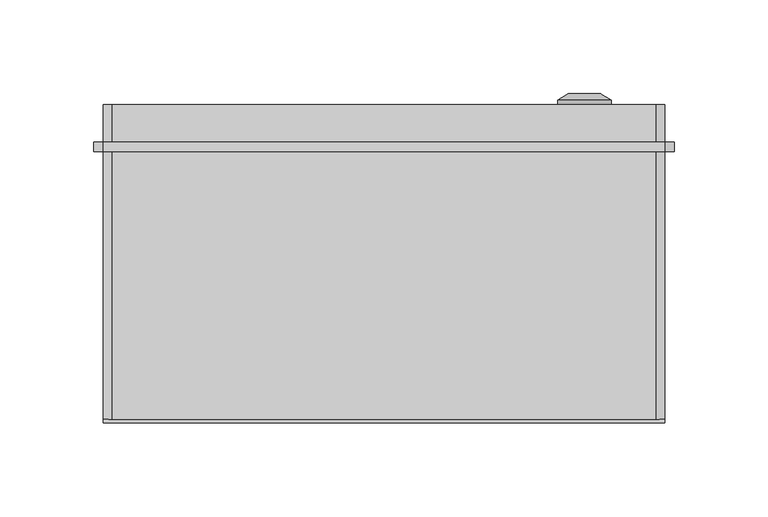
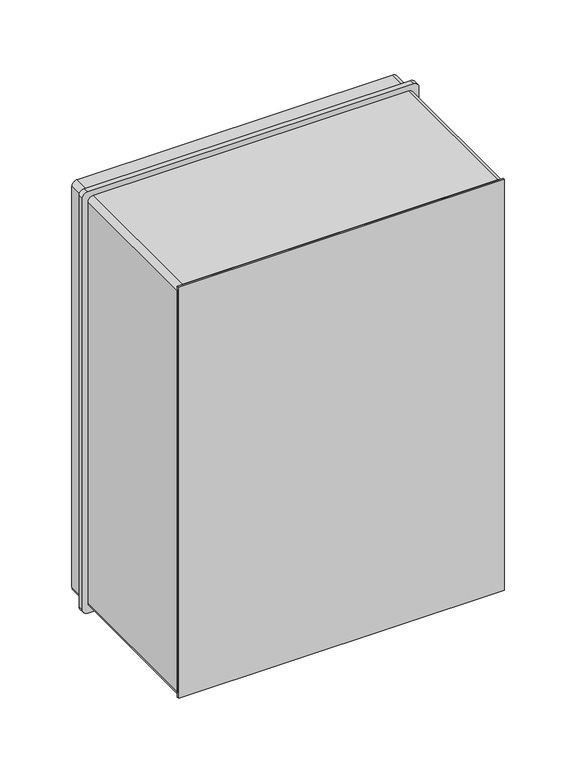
"""IFC4 building model written with IfcOpenShell, lengths in millimetres: proxy geometry, ЩПМП_IP55 : ЩПМП-1-1."""

from ifc_helpers import new_model, si_unit, point, frame, frame_2d, origin, origin_with_axes, place, context, project, spatial, polyline, circle_curve, trimmed, segment, composite_curve, outline, extrude, source, transform, mapped, element, save
from ifc_brep_helpers import plane_surface, cylinder_surface, revolved_surface, advanced_brep


def electrical_equipment_ec702200(model_context):
    return source(origin(), model_context, "Body", "SolidModel", [
        advanced_brep(
        [(92.669873, 170.0, 56.5), (121.330127, 170.0, 56.5), (107.0, 170.0, 56.5), (92.669873, 172.366592, 56.5), (121.330127, 172.366592, 56.5), (98.4845412, 176.0, 56.5), (115.5154588, 176.0, 56.5), (104.0610864, 176.0, 56.5), (109.9389136, 176.0, 56.5), (104.0610864, 174.9822294, 56.5), (109.9389136, 174.9822294, 56.5), (107.0, 174.9822294, 56.5)],
        [
            (0, 1, circle_curve(frame((107.0, 170.0, 56.5), z_axis=(0.0, -1.0, 0.0), x_axis=(1.0, 0.0, 0.0)), 14.330127)),
            (1, 2),
            (2, 0),
            (1, 0, circle_curve(frame((107.0, 170.0, 56.5), z_axis=(0.0, -1.0, 0.0), x_axis=(1.0, 0.0, 0.0)), 14.330127)),
            (3, 4, circle_curve(frame((107.0, 172.366592, 56.5), z_axis=(0.0, -1.0, 0.0), x_axis=(1.0, 0.0, 0.0)), 14.330127)),
            (4, 1),
            (0, 3),
            (4, 3, circle_curve(frame((107.0, 172.366592, 56.5), z_axis=(0.0, -1.0, 0.0), x_axis=(1.0, 0.0, 0.0)), 14.330127)),
            (5, 6, circle_curve(frame((107.0, 176.0, 56.5), z_axis=(0.0, -1.0, 0.0), x_axis=(1.0, 0.0, 0.0)), 8.5154588)),
            (6, 4),
            (3, 5),
            (6, 5, circle_curve(frame((107.0, 176.0, 56.5), z_axis=(0.0, -1.0, 0.0), x_axis=(1.0, 0.0, 0.0)), 8.5154588)),
            (7, 8, circle_curve(frame((107.0, 176.0, 56.5), z_axis=(0.0, -1.0, 0.0), x_axis=(1.0, 0.0, 0.0)), 2.9389136)),
            (8, 6),
            (5, 7),
            (8, 7, circle_curve(frame((107.0, 176.0, 56.5), z_axis=(0.0, -1.0, 0.0), x_axis=(1.0, 0.0, 0.0)), 2.9389136)),
            (9, 10, circle_curve(frame((107.0, 174.9822294, 56.5), z_axis=(0.0, -1.0, 0.0), x_axis=(1.0, 0.0, 0.0)), 2.9389136)),
            (10, 8),
            (7, 9),
            (10, 9, circle_curve(frame((107.0, 174.9822294, 56.5), z_axis=(0.0, -1.0, 0.0), x_axis=(1.0, 0.0, 0.0)), 2.9389136)),
            (11, 10),
            (9, 11),
        ],
        [
            plane_surface(frame((107.0, 170.0, 56.5), z_axis=(0.0, -1.0, 0.0), x_axis=(1.0, 0.0, 0.0))),
            cylinder_surface(frame((107.0, 183.1348851, 56.5), z_axis=(0.0, 1.0, 0.0), x_axis=(1.0, 0.0, 0.0)), 14.330127),
            revolved_surface(polyline([(121.330127, 172.366592, 56.5), (115.5154588, 176.0, 56.5)]), (107.0, 183.1348851, 56.5), (0.0, 1.0, 0.0)),
            plane_surface(frame((107.0, 176.0, 56.5), z_axis=(0.0, 1.0, 0.0), x_axis=(1.0, 0.0, 0.0))),
            revolved_surface(polyline([(109.9389136, 176.0, 56.5), (109.9389136, 174.9822294, 56.5)]), (107.0, 183.1348851, 56.5), (0.0, 1.0, 0.0)),
            plane_surface(frame((107.0, 174.9822294, 56.5), z_axis=(0.0, 1.0, 0.0), x_axis=(1.0, 0.0, 0.0))),
        ],
        [
            (0, [[1, 2, 3]]),
            (0, [[4, -3, -2]]),
            (1, [[5, 6, -1, 7]]),
            (1, [[8, -7, -4, -6]]),
            (2, [[9, 10, -5, 11]]),
            (2, [[12, -11, -8, -10]]),
            (3, [[13, 14, -9, 15]]),
            (3, [[16, -15, -12, -14]]),
            (4, [[17, 18, -13, 19]]),
            (4, [[20, -19, -16, -18]]),
            (5, [[21, -17, 22]]),
            (5, [[-22, -20, -21]]),
        ],
    ),
        advanced_brep(
        [(92.669873, 170.0, 348.5), (121.330127, 170.0, 348.5), (107.0, 170.0, 348.5), (92.669873, 172.366592, 348.5), (121.330127, 172.366592, 348.5), (98.4845412, 176.0, 348.5), (115.5154588, 176.0, 348.5), (104.0610864, 176.0, 348.5), (109.9389136, 176.0, 348.5), (104.0610864, 174.9822294, 348.5), (109.9389136, 174.9822294, 348.5), (107.0, 174.9822294, 348.5)],
        [
            (0, 1, circle_curve(frame((107.0, 170.0, 348.5), z_axis=(0.0, -1.0, 0.0), x_axis=(1.0, 0.0, 0.0)), 14.330127)),
            (1, 2),
            (2, 0),
            (1, 0, circle_curve(frame((107.0, 170.0, 348.5), z_axis=(0.0, -1.0, 0.0), x_axis=(1.0, 0.0, 0.0)), 14.330127)),
            (3, 4, circle_curve(frame((107.0, 172.366592, 348.5), z_axis=(0.0, -1.0, 0.0), x_axis=(1.0, 0.0, 0.0)), 14.330127)),
            (4, 1),
            (0, 3),
            (4, 3, circle_curve(frame((107.0, 172.366592, 348.5), z_axis=(0.0, -1.0, 0.0), x_axis=(1.0, 0.0, 0.0)), 14.330127)),
            (5, 6, circle_curve(frame((107.0, 176.0, 348.5), z_axis=(0.0, -1.0, 0.0), x_axis=(1.0, 0.0, 0.0)), 8.5154588)),
            (6, 4),
            (3, 5),
            (6, 5, circle_curve(frame((107.0, 176.0, 348.5), z_axis=(0.0, -1.0, 0.0), x_axis=(1.0, 0.0, 0.0)), 8.5154588)),
            (7, 8, circle_curve(frame((107.0, 176.0, 348.5), z_axis=(0.0, -1.0, 0.0), x_axis=(1.0, 0.0, 0.0)), 2.9389136)),
            (8, 6),
            (5, 7),
            (8, 7, circle_curve(frame((107.0, 176.0, 348.5), z_axis=(0.0, -1.0, 0.0), x_axis=(1.0, 0.0, 0.0)), 2.9389136)),
            (9, 10, circle_curve(frame((107.0, 174.9822294, 348.5), z_axis=(0.0, -1.0, 0.0), x_axis=(1.0, 0.0, 0.0)), 2.9389136)),
            (10, 8),
            (7, 9),
            (10, 9, circle_curve(frame((107.0, 174.9822294, 348.5), z_axis=(0.0, -1.0, 0.0), x_axis=(1.0, 0.0, 0.0)), 2.9389136)),
            (11, 10),
            (9, 11),
        ],
        [
            plane_surface(frame((107.0, 170.0, 348.5), z_axis=(0.0, -1.0, 0.0), x_axis=(1.0, 0.0, 0.0))),
            cylinder_surface(frame((107.0, 183.1348851, 348.5), z_axis=(0.0, 1.0, 0.0), x_axis=(1.0, 0.0, 0.0)), 14.330127),
            revolved_surface(polyline([(121.330127, 172.366592, 348.5), (115.5154588, 176.0, 348.5)]), (107.0, 183.1348851, 348.5), (0.0, 1.0, 0.0)),
            plane_surface(frame((107.0, 176.0, 348.5), z_axis=(0.0, 1.0, 0.0), x_axis=(1.0, 0.0, 0.0))),
            revolved_surface(polyline([(109.9389136, 176.0, 348.5), (109.9389136, 174.9822294, 348.5)]), (107.0, 183.1348851, 348.5), (0.0, 1.0, 0.0)),
            plane_surface(frame((107.0, 174.9822294, 348.5), z_axis=(0.0, 1.0, 0.0), x_axis=(1.0, 0.0, 0.0))),
        ],
        [
            (0, [[1, 2, 3]]),
            (0, [[4, -3, -2]]),
            (1, [[5, 6, -1, 7]]),
            (1, [[8, -7, -4, -6]]),
            (2, [[9, 10, -5, 11]]),
            (2, [[12, -11, -8, -10]]),
            (3, [[13, 14, -9, 15]]),
            (3, [[16, -15, -12, -14]]),
            (4, [[17, 18, -13, 19]]),
            (4, [[20, -19, -16, -18]]),
            (5, [[21, -17, 22]]),
            (5, [[-22, -20, -21]]),
        ],
    ),
        extrude(outline(composite_curve([segment(trimmed(circle_curve(frame_2d((400.0, -150.0)), 5.0), [point((405.0, -150.0))], [point((400.0, -155.0))], False, "CARTESIAN"), True, "CONTINUOUS"), segment(polyline([(400.0, -155.0), (0.0, -155.0)]), True, "CONTINUOUS"), segment(trimmed(circle_curve(frame_2d((0.0, -150.0)), 5.0), [point((0.0, -155.0))], [point((-5.0, -150.0))], False, "CARTESIAN"), True, "CONTINUOUS"), segment(polyline([(-5.0, -150.0), (-5.0, 150.0)]), True, "CONTINUOUS"), segment(trimmed(circle_curve(frame_2d((0.0, 150.0)), 5.0), [point((-5.0, 150.0))], [point((0.0, 155.0))], False, "CARTESIAN"), True, "CONTINUOUS"), segment(polyline([(0.0, 155.0), (400.0, 155.0)]), True, "CONTINUOUS"), segment(trimmed(circle_curve(frame_2d((400.0, 150.0)), 5.0), [point((400.0, 155.0))], [point((405.0, 150.0))], False, "CARTESIAN"), True, "CONTINUOUS"), segment(polyline([(405.0, 150.0), (405.0, -150.0)]), True, "CONTINUOUS")], self_intersect=False)), frame((0.0, 145.0, 0.0), z_axis=(0.0, 1.0, 0.0), x_axis=(0.0, 0.0, 1.0)), (0.0, 0.0, 1.0), 5.0),
        extrude(outline(composite_curve([segment(trimmed(circle_curve(frame_2d((395.0, -145.0)), 5.0), [point((400.0, -145.0))], [point((395.0, -150.0))], False, "CARTESIAN"), True, "CONTINUOUS"), segment(polyline([(395.0, -150.0), (5.0, -150.0)]), True, "CONTINUOUS"), segment(trimmed(circle_curve(frame_2d((5.0, -145.0)), 5.0), [point((5.0, -150.0))], [point((0.0, -145.0))], False, "CARTESIAN"), True, "CONTINUOUS"), segment(polyline([(0.0, -145.0), (0.0, 145.0)]), True, "CONTINUOUS"), segment(trimmed(circle_curve(frame_2d((5.0, 145.0)), 5.0), [point((0.0, 145.0))], [point((5.0, 150.0))], False, "CARTESIAN"), True, "CONTINUOUS"), segment(polyline([(5.0, 150.0), (395.0, 150.0)]), True, "CONTINUOUS"), segment(trimmed(circle_curve(frame_2d((395.0, 145.0)), 5.0), [point((395.0, 150.0))], [point((400.0, 145.0))], False, "CARTESIAN"), True, "CONTINUOUS"), segment(polyline([(400.0, 145.0), (400.0, -145.0)]), True, "CONTINUOUS")], self_intersect=False)), frame((0.0, 150.0, 0.0), z_axis=(0.0, 1.0, 0.0), x_axis=(0.0, 0.0, 1.0)), (0.0, 0.0, 1.0), 20.0),
        extrude(outline(composite_curve([segment(trimmed(circle_curve(frame_2d((395.0, -145.0033905)), 5.0), [point((400.0, -145.0033905))], [point((395.0, -150.0033905))], False, "CARTESIAN"), True, "CONTINUOUS"), segment(polyline([(395.0, -150.0033905), (5.0, -150.0033905)]), True, "CONTINUOUS"), segment(trimmed(circle_curve(frame_2d((5.0, -145.0033905)), 5.0), [point((5.0, -150.0033905))], [point((0.0, -145.0033905))], False, "CARTESIAN"), True, "CONTINUOUS"), segment(polyline([(0.0, -145.0033905), (0.0, 144.9966095)]), True, "CONTINUOUS"), segment(trimmed(circle_curve(frame_2d((5.0, 144.9966095)), 5.0), [point((0.0, 144.9966095))], [point((5.0, 149.9966095))], False, "CARTESIAN"), True, "CONTINUOUS"), segment(polyline([(5.0, 149.9966095), (395.0, 149.9966095)]), True, "CONTINUOUS"), segment(trimmed(circle_curve(frame_2d((395.0, 144.9966095)), 5.0), [point((395.0, 149.9966095))], [point((400.0, 144.9966095))], False, "CARTESIAN"), True, "CONTINUOUS"), segment(polyline([(400.0, 144.9966095), (400.0, -145.0033905)]), True, "CONTINUOUS")], self_intersect=False), holes=[polyline([(365.0, -117.0033905), (365.0, 116.9966095), (35.0, 116.9966095), (35.0, -117.0033905), (365.0, -117.0033905)])]), frame((0.0, 2.0, 0.0), z_axis=(0.0, 1.0, 0.0), x_axis=(0.0, 0.0, 1.0)), (0.0, 0.0, 1.0), 143.0),
        extrude(outline(polyline([(150.0, 0.0), (-150.0, 0.0), (-150.0, 2.0), (150.0, 2.0), (150.0, 0.0)])), origin_with_axes(), (0.0, 0.0, 1.0), 400.0),
    ])


if __name__ == "__main__":
    model = new_model("IFC4")
    model_context = context("Model", 3, world=origin())
    ifc_project = project(units=[si_unit("LENGTHUNIT", "METRE", prefix="MILLI")], contexts=[model_context])
    site = spatial("IfcSite", under=ifc_project)
    building = spatial("IfcBuilding", under=site)
    placement = place(None, origin())
    electrical_equipment_shape = electrical_equipment_ec702200(model_context)
    element("IfcBuildingElementProxy", 1, Name="ЩПМП_IP55 : ЩПМП-1-1", ObjectType="ЩПМП_IP55 : ЩПМП-1-1", at=placement, inside=building, context=model_context, shape_type="MappedRepresentation", body=[
        mapped(electrical_equipment_shape, transform((0.0, 0.0, 0.0), x_axis=(1.0, 0.0, 0.0), y_axis=(0.0, 1.0, 0.0), z_axis=(0.0, 0.0, 1.0))),
    ])
    save(model, "model.ifc")
